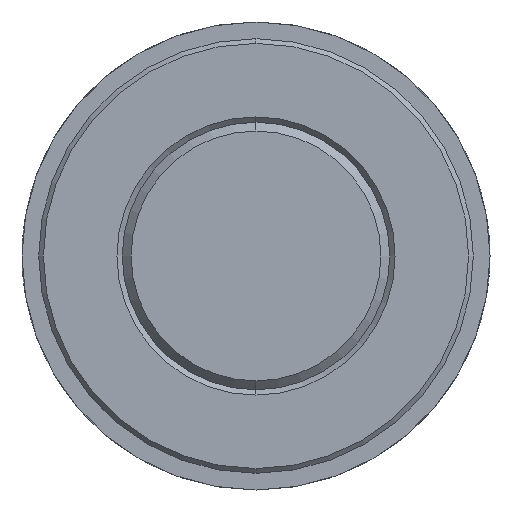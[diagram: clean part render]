
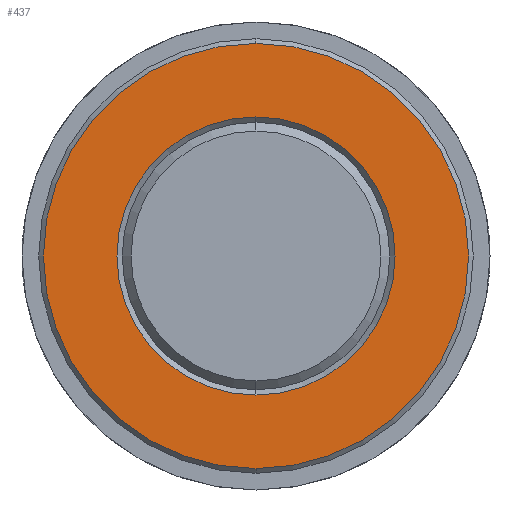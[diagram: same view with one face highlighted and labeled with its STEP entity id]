
A CAD part, left-side view. The second image highlights one B-rep face of the part: STEP entity #437.
In plain terms, the highlighted planar face has unit normal (-1, 0, 0).
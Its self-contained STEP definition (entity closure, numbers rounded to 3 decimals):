
#221=EDGE_CURVE('',#273,#489,#616,.T.);
#273=VERTEX_POINT('',#674);
#333=VERTEX_POINT('',#740);
#429=VERTEX_POINT('',#849);
#437=ADVANCED_FACE('',(#857,#858),#859,.T.);
#485=EDGE_CURVE('',#429,#333,#912,.T.);
#489=VERTEX_POINT('',#916);
#565=EDGE_CURVE('',#489,#273,#1002,.T.);
#591=EDGE_CURVE('',#333,#429,#1030,.T.);
#616=CIRCLE('',#1048,16.64);
#674=CARTESIAN_POINT('',(25.0,0.,-16.64));
#740=CARTESIAN_POINT('',(25.0,0.0,25.44));
#849=CARTESIAN_POINT('',(25.0,0.,-25.44));
#857=FACE_BOUND('',#1416,.T.);
#858=FACE_OUTER_BOUND('',#1417,.T.);
#859=PLANE('',#1418);
#912=CIRCLE('',#1511,25.44);
#916=CARTESIAN_POINT('',(25.0,0.0,16.64));
#1002=CIRCLE('',#1625,16.64);
#1030=CIRCLE('',#1692,25.44);
#1048=AXIS2_PLACEMENT_3D('',#1701,#1702,#1703);
#1416=EDGE_LOOP('',(#1982,#1983));
#1417=EDGE_LOOP('',(#1984,#1985));
#1418=AXIS2_PLACEMENT_3D('',#1986,#1987,#1988);
#1511=AXIS2_PLACEMENT_3D('',#2058,#2059,#2060);
#1625=AXIS2_PLACEMENT_3D('',#2174,#2175,#2176);
#1692=AXIS2_PLACEMENT_3D('',#2198,#2199,#2200);
#1701=CARTESIAN_POINT('',(25.0,0.0,0.0));
#1702=DIRECTION('',(1.0,0.0,0.));
#1703=DIRECTION('',(0.,0.0,1.0));
#1982=ORIENTED_EDGE('',*,*,#565,.T.);
#1983=ORIENTED_EDGE('',*,*,#221,.T.);
#1984=ORIENTED_EDGE('',*,*,#591,.F.);
#1985=ORIENTED_EDGE('',*,*,#485,.F.);
#1986=CARTESIAN_POINT('',(25.0,0.0,12.72));
#1987=DIRECTION('',(-1.0,0.0,0.));
#1988=DIRECTION('',(0.,0.0,-1.0));
#2058=CARTESIAN_POINT('',(25.0,0.0,0.0));
#2059=DIRECTION('',(1.0,0.0,-0.0));
#2060=DIRECTION('',(0.0,0.0,1.0));
#2174=CARTESIAN_POINT('',(25.0,0.0,0.0));
#2175=DIRECTION('',(1.0,0.0,0.));
#2176=DIRECTION('',(0.,0.0,1.0));
#2198=CARTESIAN_POINT('',(25.0,0.0,0.0));
#2199=DIRECTION('',(1.0,0.0,-0.0));
#2200=DIRECTION('',(0.0,0.0,1.0));
